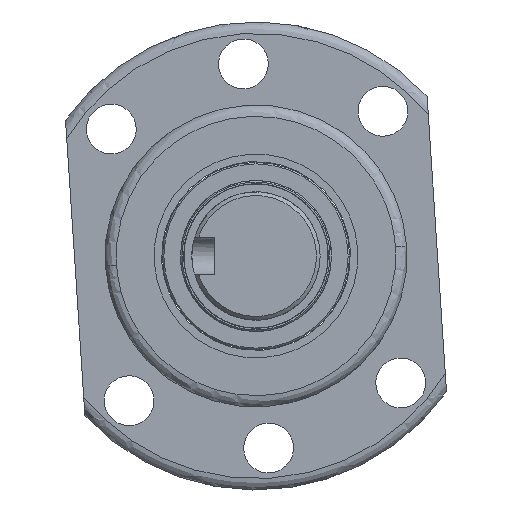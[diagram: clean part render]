
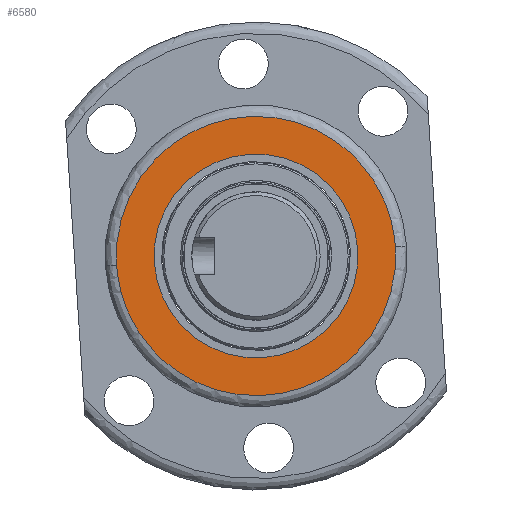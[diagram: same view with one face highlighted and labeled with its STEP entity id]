
A CAD part, left-side view. The second image highlights one B-rep face of the part: STEP entity #6580.
In plain terms, the highlighted planar face has unit normal (-1, 0, 0).
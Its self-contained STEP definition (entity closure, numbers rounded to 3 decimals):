
#106 = AXIS2_PLACEMENT_3D ( 'NONE', #5781, #1924, #6419 ) ;
#110 = FACE_OUTER_BOUND ( 'NONE', #3234, .T. ) ;
#781 = VERTEX_POINT ( 'NONE', #1425 ) ;
#883 =( BOUNDED_CURVE ( )  B_SPLINE_CURVE ( 3, ( #898, #3225, #1050, #1695 ),
 .UNSPECIFIED., .F., .T. ) 
 B_SPLINE_CURVE_WITH_KNOTS ( ( 4, 4 ),
 ( 0., 1. ),
 .UNSPECIFIED. ) 
 CURVE ( )  GEOMETRIC_REPRESENTATION_ITEM ( )  RATIONAL_B_SPLINE_CURVE ( ( 1., 0.333, 0.333, 1. ) ) 
 REPRESENTATION_ITEM ( '' )  );
#898 = CARTESIAN_POINT ( 'NONE',  ( -100., 18.5, 0. ) ) ;
#949 = EDGE_LOOP ( 'NONE', ( #3220, #6168 ) ) ;
#1050 = CARTESIAN_POINT ( 'NONE',  ( -100., -18.5, 37. ) ) ;
#1347 = CARTESIAN_POINT ( 'NONE',  ( -100., -18.5, 0. ) ) ;
#1425 = CARTESIAN_POINT ( 'NONE',  ( -100., 18.5, 0. ) ) ;
#1463 = CIRCLE ( 'NONE', #6657, 13.5 ) ;
#1695 = CARTESIAN_POINT ( 'NONE',  ( -100., -18.5, 0. ) ) ;
#1864 = VERTEX_POINT ( 'NONE', #5449 ) ;
#1924 = DIRECTION ( 'NONE',  ( -1., 0., 0. ) ) ;
#1984 = VERTEX_POINT ( 'NONE', #2597 ) ;
#2597 = CARTESIAN_POINT ( 'NONE',  ( -100., 0., -13.5 ) ) ;
#2667 = CIRCLE ( 'NONE', #3029, 13.5 ) ;
#2732 = DIRECTION ( 'NONE',  ( 0., 0., 1. ) ) ;
#2761 = CARTESIAN_POINT ( 'NONE',  ( -100., 18.5, -37. ) ) ;
#2929 = DIRECTION ( 'NONE',  ( 0., 0., 1. ) ) ;
#3000 = ORIENTED_EDGE ( 'NONE', *, *, #5667, .F. ) ;
#3029 = AXIS2_PLACEMENT_3D ( 'NONE', #3479, #7062, #2929 ) ;
#3047 = CARTESIAN_POINT ( 'NONE',  ( -100., 0., 13.5 ) ) ;
#3220 = ORIENTED_EDGE ( 'NONE', *, *, #6483, .T. ) ;
#3225 = CARTESIAN_POINT ( 'NONE',  ( -100., 18.5, 37. ) ) ;
#3234 = EDGE_LOOP ( 'NONE', ( #3000, #5886 ) ) ;
#3479 = CARTESIAN_POINT ( 'NONE',  ( -100., 0., 0. ) ) ;
#3652 = CARTESIAN_POINT ( 'NONE',  ( -100., -18.5, -37. ) ) ;
#4319 =( BOUNDED_CURVE ( )  B_SPLINE_CURVE ( 3, ( #1347, #3652, #2761, #5649 ),
 .UNSPECIFIED., .F., .F. ) 
 B_SPLINE_CURVE_WITH_KNOTS ( ( 4, 4 ),
 ( 0., 1. ),
 .UNSPECIFIED. ) 
 CURVE ( )  GEOMETRIC_REPRESENTATION_ITEM ( )  RATIONAL_B_SPLINE_CURVE ( ( 1., 0.333, 0.333, 1. ) ) 
 REPRESENTATION_ITEM ( '' )  );
#4938 = EDGE_CURVE ( 'NONE', #1864, #781, #4319, .T. ) ;
#5367 = PLANE ( 'NONE',  #106 ) ;
#5449 = CARTESIAN_POINT ( 'NONE',  ( -100., -18.5, 0. ) ) ;
#5580 = DIRECTION ( 'NONE',  ( 1., 0., 0. ) ) ;
#5649 = CARTESIAN_POINT ( 'NONE',  ( -100., 18.5, 0. ) ) ;
#5667 = EDGE_CURVE ( 'NONE', #781, #1864, #883, .T. ) ;
#5781 = CARTESIAN_POINT ( 'NONE',  ( -100., 17.5, 0. ) ) ;
#5886 = ORIENTED_EDGE ( 'NONE', *, *, #4938, .F. ) ;
#5895 = FACE_BOUND ( 'NONE', #949, .T. ) ;
#5915 = EDGE_CURVE ( 'NONE', #1984, #6486, #1463, .T. ) ;
#6138 = CARTESIAN_POINT ( 'NONE',  ( -100., 0., 0. ) ) ;
#6168 = ORIENTED_EDGE ( 'NONE', *, *, #5915, .T. ) ;
#6419 = DIRECTION ( 'NONE',  ( 0., 0., 1. ) ) ;
#6483 = EDGE_CURVE ( 'NONE', #6486, #1984, #2667, .T. ) ;
#6486 = VERTEX_POINT ( 'NONE', #3047 ) ;
#6580 = ADVANCED_FACE ( 'NONE', ( #5895, #110 ), #5367, .T. ) ;
#6657 = AXIS2_PLACEMENT_3D ( 'NONE', #6138, #5580, #2732 ) ;
#7062 = DIRECTION ( 'NONE',  ( 1., 0., 0. ) ) ;
